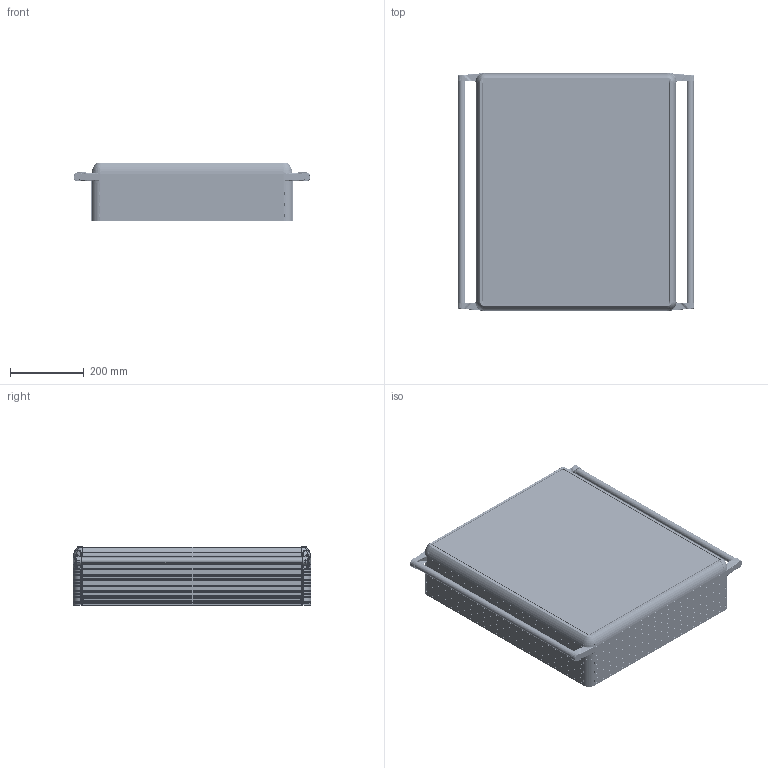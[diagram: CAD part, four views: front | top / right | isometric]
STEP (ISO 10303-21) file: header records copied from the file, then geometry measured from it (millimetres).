
FILE_DESCRIPTION (( 'STEP AP214' ), '1' );
FILE_NAME ('1500-0215.STEP', '2022-04-20T08:46:21', ( '' ), ( '' ), 'SwSTEP 2.0', 'SolidWorks 2022', '' );
FILE_SCHEMA (( 'AUTOMOTIVE_DESIGN' ));
Length unit declared in the file: millimetre
Products named in the file (13): PLSECO-150-001; ARKA_KAPAK_VÝDALI_500X600; HPECO-150-002; HPECO-150-001_495; 500X600; ECO1500-0100(SOL); PLSECO-004; HPECO-150-001_595; PLSECO-003; PLSECO-150-002; 1500-0215; ECO1500-0100(SAÐ); boru_625
Assembly tree (19 placements, depth 3):
  1500-0215
    500X600
    ARKA_KAPAK_VÝDALI_500X600
    HPECO-150-001_495  x2
    boru_625  x2
    ECO1500-0100(SAÐ)  x2
      HPECO-150-002
      PLSECO-150-002
      PLSECO-150-001
      PLSECO-004
      PLSECO-003
    HPECO-150-001_595  x2
    ECO1500-0100(SOL)  x2
Bounding box: 644.62 x 647 x 158.05 mm (x, y, z)
Volume: 3750354.4 mm3; surface area: 3247046.9 mm2
Topology: 44 solids, 44 shells, 9012 faces, 23164 edges, 14044 vertices
Faces by surface type: bspline 2896, plane 2754, cylinder 2526, torus 368, cone 356, sphere 112
Entity records: 188519 total; most frequent: CARTESIAN_POINT 70781, ORIENTED_EDGE 22664, DIRECTION 16698, EDGE_CURVE 11332, VERTEX_POINT 6930, AXIS2_PLACEMENT_3D 6035, VECTOR 4628, LINE 4628
